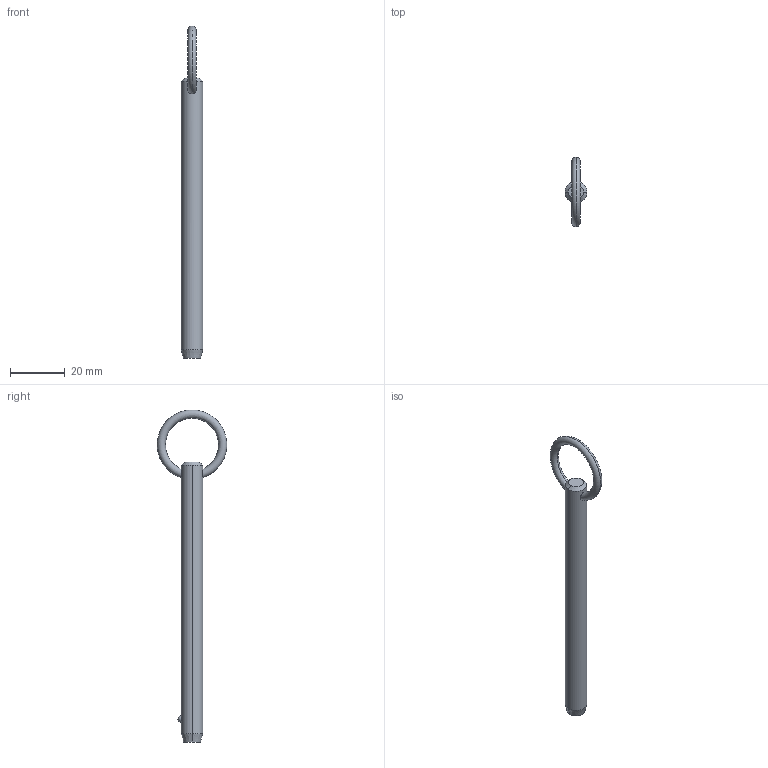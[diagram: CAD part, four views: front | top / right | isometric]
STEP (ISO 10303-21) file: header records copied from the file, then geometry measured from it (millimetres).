
FILE_DESCRIPTION (( 'STEP AP203' ), '1' );
FILE_NAME ('P1250.031-340.step', '2019-07-29T19:53:54', ( '' ), ( '' ), 'SwSTEP 2.0', 'SolidWorks 2017', '' );
FILE_SCHEMA (( 'CONFIG_CONTROL_DESIGN' ));
Length unit declared in the file: millimetre
Products named in the file (1): P1250.031-340
Bounding box: 7.93 x 25.36 x 121.31 mm (x, y, z)
Volume: 5451.6 mm3; surface area: 3183.2 mm2
Topology: 1 solids, 1 shells, 12 faces, 28 edges, 17 vertices
Faces by surface type: cone 4, torus 2, sphere 2, cylinder 2, plane 2
Entity records: 509 total; most frequent: CARTESIAN_POINT 176, DIRECTION 56, ORIENTED_EDGE 48, AXIS2_PLACEMENT_3D 25, EDGE_CURVE 24, EDGE_LOOP 15, VERTEX_POINT 15, FACE_OUTER_BOUND 12
